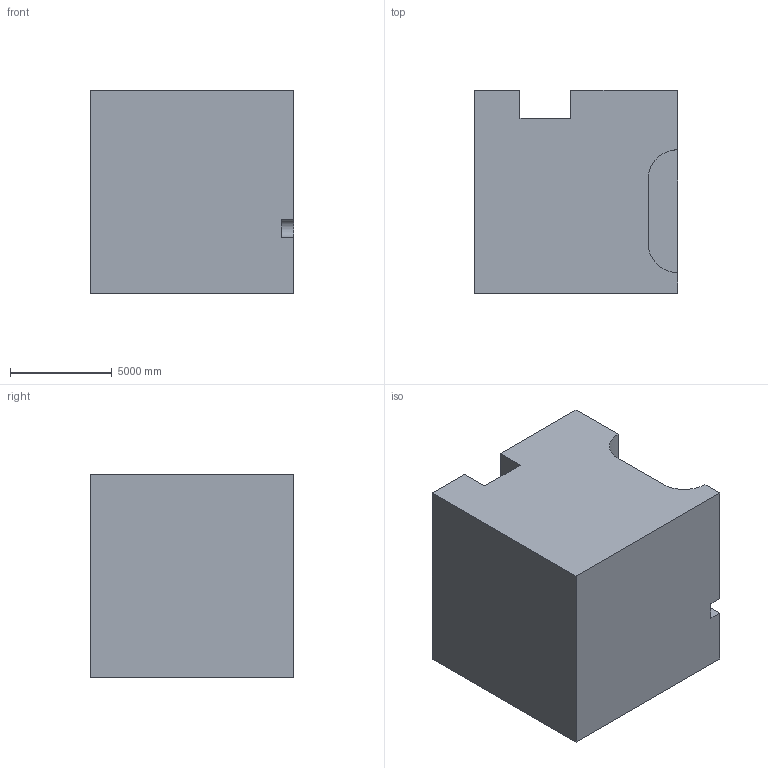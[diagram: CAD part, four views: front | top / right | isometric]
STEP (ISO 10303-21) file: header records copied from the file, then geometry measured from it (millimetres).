
FILE_DESCRIPTION (( 'STEP AP203' ), '1' );
FILE_NAME ('36.STEP', '2022-08-30T14:07:19', ( 'user' ), ( '' ), 'SwSTEP 2.0', 'SolidWorks 2021', '' );
FILE_SCHEMA (( 'CONFIG_CONTROL_DESIGN' ));
Length unit declared in the file: centimetre
Products named in the file (1): 36
Bounding box: 10000 x 10000 x 10000 mm (x, y, z)
Volume: 908914483930.7 mm3; surface area: 623472373.8 mm2
Topology: 1 solids, 1 shells, 22 faces, 60 edges, 40 vertices
Faces by surface type: plane 17, cylinder 5
Entity records: 771 total; most frequent: CARTESIAN_POINT 123, ORIENTED_EDGE 120, DIRECTION 116, EDGE_CURVE 60, VECTOR 50, LINE 50, VERTEX_POINT 40, AXIS2_PLACEMENT_3D 33
